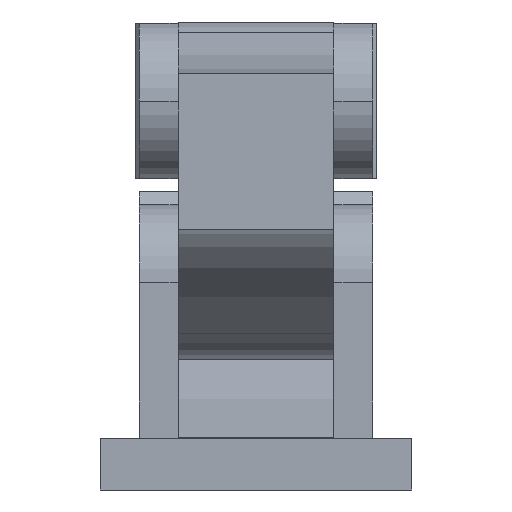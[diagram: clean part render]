
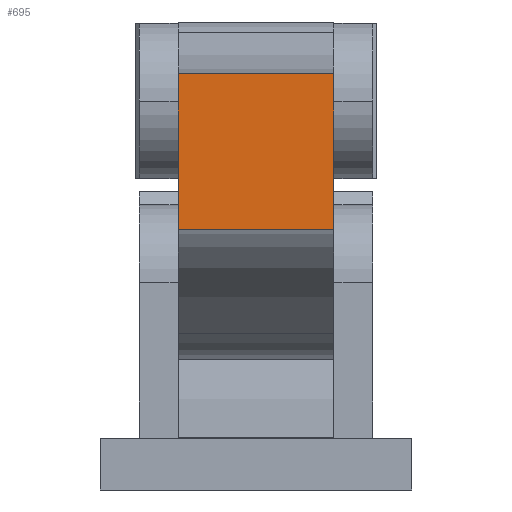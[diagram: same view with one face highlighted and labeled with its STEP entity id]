
A CAD part, left-side view. The second image highlights one B-rep face of the part: STEP entity #695.
In plain terms, the highlighted planar face has unit normal (-1, 0, 0).
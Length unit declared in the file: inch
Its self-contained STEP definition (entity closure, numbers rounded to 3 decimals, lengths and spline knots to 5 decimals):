
#695 = ADVANCED_FACE( '', ( #1015 ), #1016, .T. );
#1015 = FACE_OUTER_BOUND( '', #1345, .T. );
#1016 = PLANE( '', #1346 );
#1345 = EDGE_LOOP( '', ( #2491, #2492, #2493, #2494 ) );
#1346 = AXIS2_PLACEMENT_3D( '', #2495, #2496, #2497 );
#2491 = ORIENTED_EDGE( '', *, *, #2921, .F. );
#2492 = ORIENTED_EDGE( '', *, *, #2922, .T. );
#2493 = ORIENTED_EDGE( '', *, *, #2923, .T. );
#2494 = ORIENTED_EDGE( '', *, *, #2914, .F. );
#2495 = CARTESIAN_POINT( '', ( -3.625, 0.375, 1.75602 ) );
#2496 = DIRECTION( '', ( -1., 0., 0. ) );
#2497 = DIRECTION( '', ( 0., 0., 1. ) );
#2914 = EDGE_CURVE( '', #3518, #3519, #3520, .T. );
#2921 = EDGE_CURVE( '', #3529, #3518, #3531, .T. );
#2922 = EDGE_CURVE( '', #3529, #3532, #3533, .T. );
#2923 = EDGE_CURVE( '', #3532, #3519, #3534, .T. );
#3518 = VERTEX_POINT( '', #4358 );
#3519 = VERTEX_POINT( '', #4359 );
#3520 = LINE( '', #4360, #4361 );
#3529 = VERTEX_POINT( '', #4373 );
#3531 = LINE( '', #4376, #4377 );
#3532 = VERTEX_POINT( '', #4378 );
#3533 = LINE( '', #4379, #4380 );
#3534 = LINE( '', #4381, #4382 );
#4358 = CARTESIAN_POINT( '', ( -3.625, 0.375, 1.00602 ) );
#4359 = CARTESIAN_POINT( '', ( -3.625, 0.375, 1.75602 ) );
#4360 = CARTESIAN_POINT( '', ( -3.625, 0.375, 1.00602 ) );
#4361 = VECTOR( '', #5081, 1. );
#4373 = CARTESIAN_POINT( '', ( -3.625, -0.375, 1.00602 ) );
#4376 = CARTESIAN_POINT( '', ( -3.625, -0.375, 1.00602 ) );
#4377 = VECTOR( '', #5092, 1. );
#4378 = CARTESIAN_POINT( '', ( -3.625, -0.375, 1.75602 ) );
#4379 = CARTESIAN_POINT( '', ( -3.625, -0.375, 1.00602 ) );
#4380 = VECTOR( '', #5093, 1. );
#4381 = CARTESIAN_POINT( '', ( -3.625, -0.375, 1.75602 ) );
#4382 = VECTOR( '', #5094, 1. );
#5081 = DIRECTION( '', ( 0., 0., 1. ) );
#5092 = DIRECTION( '', ( 0., 1., 0. ) );
#5093 = DIRECTION( '', ( 0., 0., 1. ) );
#5094 = DIRECTION( '', ( 0., 1., 0. ) );
